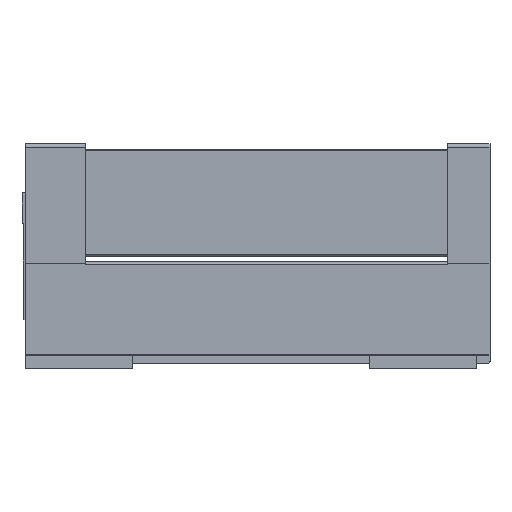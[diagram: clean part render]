
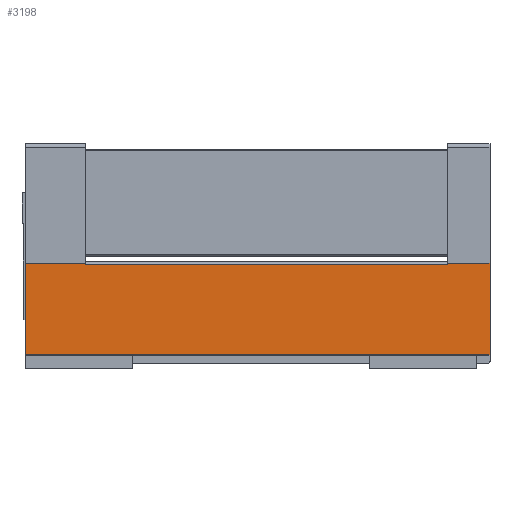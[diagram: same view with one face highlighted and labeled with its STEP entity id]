
A CAD part, left-side view. The second image highlights one B-rep face of the part: STEP entity #3198.
In plain terms, the highlighted planar face has unit normal (-1, 0, 0).
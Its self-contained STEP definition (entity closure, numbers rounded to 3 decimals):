
#254 = LINE ( 'NONE', #4200, #260 ) ;
#260 = VECTOR ( 'NONE', #4166, 1000. ) ;
#367 = VECTOR ( 'NONE', #4058, 1000. ) ;
#375 = LINE ( 'NONE', #4231, #367 ) ;
#386 = VECTOR ( 'NONE', #4340, 1000. ) ;
#389 = LINE ( 'NONE', #4344, #386 ) ;
#678 = ORIENTED_EDGE ( 'NONE', *, *, #2915, .F. ) ;
#679 = ORIENTED_EDGE ( 'NONE', *, *, #2621, .F. ) ;
#680 = ORIENTED_EDGE ( 'NONE', *, *, #2826, .F. ) ;
#681 = ORIENTED_EDGE ( 'NONE', *, *, #2844, .T. ) ;
#682 = ORIENTED_EDGE ( 'NONE', *, *, #2979, .T. ) ;
#683 = ORIENTED_EDGE ( 'NONE', *, *, #2722, .F. ) ;
#684 = ORIENTED_EDGE ( 'NONE', *, *, #3080, .F. ) ;
#685 = ORIENTED_EDGE ( 'NONE', *, *, #2636, .F. ) ;
#793 = EDGE_LOOP ( 'NONE', ( #678, #679, #680, #681, #682, #683, #684, #685 ) ) ;
#1268 = VECTOR ( 'NONE', #3572, 1000. ) ;
#1269 = LINE ( 'NONE', #3573, #1268 ) ;
#1404 = VECTOR ( 'NONE', #3773, 1000. ) ;
#1405 = LINE ( 'NONE', #3774, #1404 ) ;
#1502 = VECTOR ( 'NONE', #4056, 1000. ) ;
#1503 = LINE ( 'NONE', #4057, #1502 ) ;
#1590 = VECTOR ( 'NONE', #4315, 1000. ) ;
#1591 = LINE ( 'NONE', #4320, #1590 ) ;
#1610 = LINE ( 'NONE', #4013, #1620 ) ;
#1620 = VECTOR ( 'NONE', #4025, 1000. ) ;
#1740 = FACE_OUTER_BOUND ( 'NONE', #793, .T. ) ;
#2151 = PLANE ( 'NONE',  #3044 ) ;
#2154 = CARTESIAN_POINT ( 'NONE',  ( -4.1, 390., -28.503 ) ) ;
#2163 = DIRECTION ( 'NONE',  ( 1., 0., 0. ) ) ;
#2164 = DIRECTION ( 'NONE',  ( 0., 0., -1. ) ) ;
#2301 = CARTESIAN_POINT ( 'NONE',  ( -4.1, 339.3, 47.266 ) ) ;
#2315 = CARTESIAN_POINT ( 'NONE',  ( -4.1, 35.3, 48.248 ) ) ;
#2352 = CARTESIAN_POINT ( 'NONE',  ( -4.1, 35.3, 47.266 ) ) ;
#2361 = CARTESIAN_POINT ( 'NONE',  ( -4.1, 0., -28.503 ) ) ;
#2373 = CARTESIAN_POINT ( 'NONE',  ( -4.1, 0., 48.248 ) ) ;
#2397 = CARTESIAN_POINT ( 'NONE',  ( -4.1, 339.3, 48.248 ) ) ;
#2447 = CARTESIAN_POINT ( 'NONE',  ( -4.1, 390., -28.503 ) ) ;
#2479 = CARTESIAN_POINT ( 'NONE',  ( -4.1, 390., 48.248 ) ) ;
#2621 = EDGE_CURVE ( 'NONE', #3403, #3307, #389, .T. ) ;
#2636 = EDGE_CURVE ( 'NONE', #3358, #3321, #375, .T. ) ;
#2722 = EDGE_CURVE ( 'NONE', #3379, #3367, #254, .T. ) ;
#2826 = EDGE_CURVE ( 'NONE', #4195, #3403, #1610, .T. ) ;
#2844 = EDGE_CURVE ( 'NONE', #4195, #3780, #1591, .T. ) ;
#2915 = EDGE_CURVE ( 'NONE', #3307, #3358, #1503, .T. ) ;
#2979 = EDGE_CURVE ( 'NONE', #3780, #3367, #1405, .T. ) ;
#3044 = AXIS2_PLACEMENT_3D ( 'NONE', #2154, #2163, #2164 ) ;
#3080 = EDGE_CURVE ( 'NONE', #3321, #3379, #1269, .T. ) ;
#3198 = ADVANCED_FACE ( 'NONE', ( #1740 ), #2151, .F. ) ;
#3307 = VERTEX_POINT ( 'NONE', #2301 ) ;
#3321 = VERTEX_POINT ( 'NONE', #2315 ) ;
#3358 = VERTEX_POINT ( 'NONE', #2352 ) ;
#3367 = VERTEX_POINT ( 'NONE', #2361 ) ;
#3379 = VERTEX_POINT ( 'NONE', #2373 ) ;
#3403 = VERTEX_POINT ( 'NONE', #2397 ) ;
#3572 = DIRECTION ( 'NONE',  ( 0., -1., 0. ) ) ;
#3573 = CARTESIAN_POINT ( 'NONE',  ( -4.1, 390., 48.248 ) ) ;
#3773 = DIRECTION ( 'NONE',  ( 0., -1., 0. ) ) ;
#3774 = CARTESIAN_POINT ( 'NONE',  ( -4.1, 390., -28.503 ) ) ;
#3780 = VERTEX_POINT ( 'NONE', #2447 ) ;
#4013 = CARTESIAN_POINT ( 'NONE',  ( -4.1, 390., 48.248 ) ) ;
#4025 = DIRECTION ( 'NONE',  ( 0., -1., 0. ) ) ;
#4056 = DIRECTION ( 'NONE',  ( 0., -1., 0. ) ) ;
#4057 = CARTESIAN_POINT ( 'NONE',  ( -4.1, 495., 47.266 ) ) ;
#4058 = DIRECTION ( 'NONE',  ( 0., 0., 1. ) ) ;
#4166 = DIRECTION ( 'NONE',  ( 0., 0., -1. ) ) ;
#4195 = VERTEX_POINT ( 'NONE', #2479 ) ;
#4200 = CARTESIAN_POINT ( 'NONE',  ( -4.1, 0., -28.503 ) ) ;
#4231 = CARTESIAN_POINT ( 'NONE',  ( -4.1, 35.3, -28.503 ) ) ;
#4315 = DIRECTION ( 'NONE',  ( 0., 0., -1. ) ) ;
#4320 = CARTESIAN_POINT ( 'NONE',  ( -4.1, 390., 46.498 ) ) ;
#4340 = DIRECTION ( 'NONE',  ( 0., 0., -1. ) ) ;
#4344 = CARTESIAN_POINT ( 'NONE',  ( -4.1, 339.3, -28.503 ) ) ;
